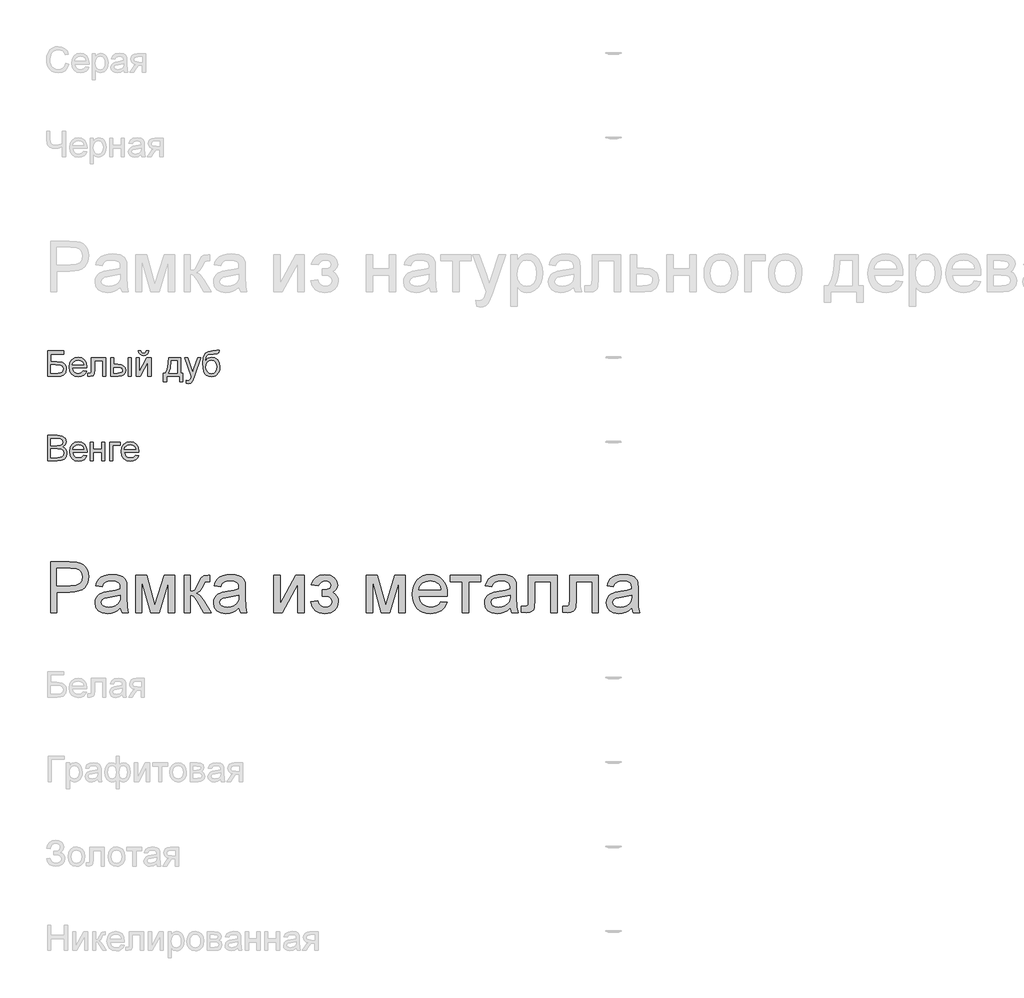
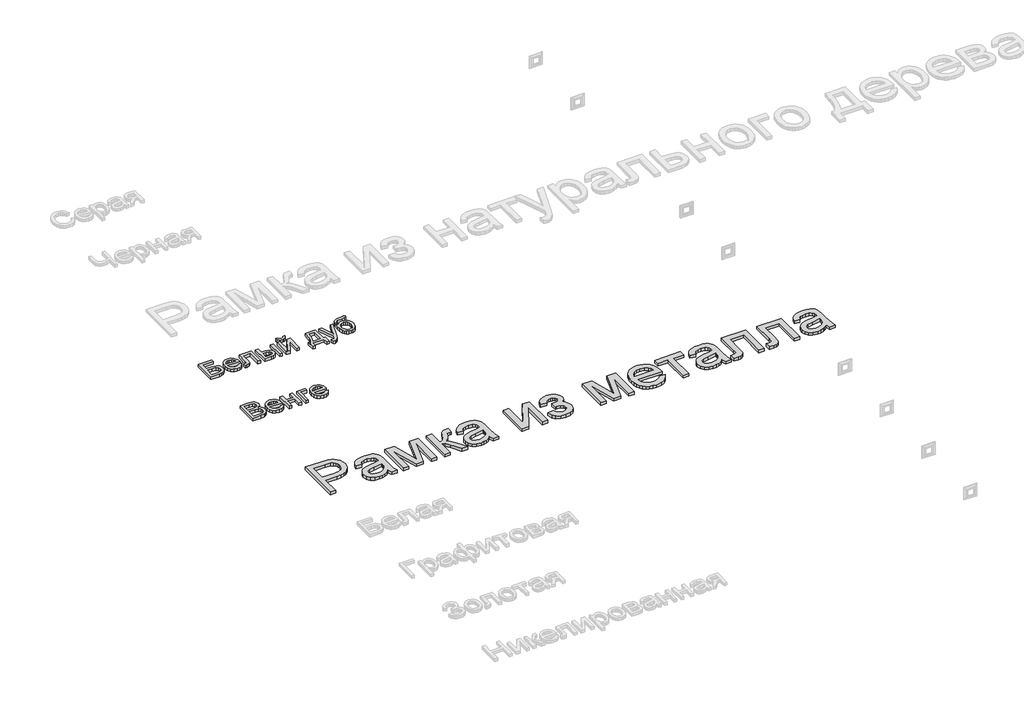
# One storey, part 110 of 168: 3 proxies.
"""IFC4 building model written with IfcOpenShell, lengths in millimetres."""

from ifc_helpers import new_model, si_unit, origin, origin_with_axes, place, context, project, spatial, polyline, outline, extrude, element, save

model = new_model("IFC4")

# Units and contexts
model_context = context("Model", 3, world=origin())
ifc_project = project(units=[si_unit("LENGTHUNIT", "METRE", prefix="MILLI")], contexts=[model_context])

# Site, building, storey
site = spatial("IfcSite", under=ifc_project)
building = spatial("IfcBuilding", under=site)
storey = spatial("IfcBuildingStorey", under=building, Name="Этаж 01", Elevation=0.0)

# Proxies
placement = place(None, origin())
element("IfcBuildingElementProxy", 1, Name="300 мм Arial 2", ObjectType="300 мм Arial 2", at=placement, inside=storey, context=model_context, shape_type="SweptSolid", body=[
    extrude(outline(polyline([(32899.0945017, -12548.4056816), (32899.0945017, -12247.0367511), (33010.7834754, -12247.0367511), (33055.8122316, -12249.9062307), (33075.8893915, -12255.2681108), (33092.4164901, -12263.9961111), (33105.7246213, -12276.4857048), (33116.1448788, -12293.1323651), (33122.8771193, -12312.7680666), (33125.1211995, -12334.224784), (33123.6059855, -12352.7246498), (33119.0603436, -12369.7437906), (33111.4842738, -12385.2822064), (33100.877776, -12399.3398971), (33086.3165468, -12410.9925593), (33066.8762826, -12419.3158895), (33042.5569835, -12424.3098875), (33013.3586494, -12425.9745536), (32936.765618, -12425.9745536), (32936.765618, -12548.4056816), (32899.0945017, -12548.4056816)]), holes=[polyline([(32936.765618, -12388.3034373), (33015.5659413, -12388.3034373), (33048.9696265, -12384.8453465), (33071.0425462, -12374.4710742), (33083.3481989, -12357.824414), (33087.4500832, -12335.5491592), (33085.0312591, -12318.6265874), (33077.7747867, -12304.352766), (33066.581977, -12293.6106117), (33052.3541408, -12287.2830414), (33014.6830245, -12284.7078674), (32936.765618, -12284.7078674), (32936.765618, -12388.3034373)])]), origin_with_axes(), (0.0, 0.0, 1.0), 20.0),
    extrude(outline(polyline([(33313.476781, -12520.1523443), (33295.4781544, -12535.584994), (33276.9460989, -12545.6833548), (33257.4575502, -12551.256767), (33236.589444, -12553.1145711), (33205.1079423, -12548.6448049), (33181.8853914, -12535.2355061), (33167.5655847, -12514.8732377), (33162.7923158, -12489.5445623), (33164.5949376, -12473.9279716), (33170.0028029, -12459.7461207), (33178.3445271, -12447.6060149), (33188.9487257, -12438.1146594), (33215.3258647, -12425.7538244), (33247.9202095, -12420.0884417), (33286.4374544, -12414.1287533), (33313.2560518, -12407.1389954), (33313.476781, -12398.7512859), (33310.883213, -12381.9390788), (33303.1025088, -12370.9394071), (33285.7016904, -12362.7724268), (33261.4582669, -12360.0501), (33239.0174652, -12361.8619189), (33223.3456922, -12367.2973753), (33212.6587202, -12377.3497509), (33205.1723216, -12393.0123268), (33167.5012053, -12388.3034373), (33174.0403078, -12367.7020455), (33183.7983777, -12351.5152378), (33197.685923, -12339.1360086), (33216.6134517, -12329.9573528), (33239.7624262, -12324.273576), (33266.3143092, -12322.3789837), (33291.7809404, -12324.0528468), (33311.9684648, -12329.074436), (33327.1895824, -12336.625214), (33337.7569927, -12345.8866432), (33344.7651447, -12357.3369703), (33349.3084874, -12371.4544419), (33351.1478973, -12404.4166687), (33351.1478973, -12451.2848348), (33353.0608837, -12516.7310418), (33360.5656764, -12548.4056816), (33322.8945601, -12548.4056816), (33313.476781, -12520.1523443)]), holes=[polyline([(33313.476781, -12444.8101117), (33252.7026754, -12456.3616064), (33220.2922716, -12462.4684475), (33205.61378, -12472.4012614), (33200.4634321, -12486.895812), (33203.2685323, -12498.0978187), (33211.683833, -12507.2764745), (33225.525393, -12513.4017097), (33244.6092715, -12515.4434548), (33264.8427813, -12513.1901776), (33282.7218462, -12506.4303459), (33297.2163968, -12496.4699409), (33307.2963635, -12484.6149436), (33311.7661297, -12472.4012614), (33313.2560518, -12455.4786896), (33313.476781, -12444.8101117)])]), origin_with_axes(), (0.0, 0.0, 1.0), 20.0),
    extrude(outline(polyline([(33402.9456823, -12327.0878733), (33467.7664898, -12327.0878733), (33517.7248647, -12504.2598421), (33571.5827888, -12327.0878733), (33633.6812696, -12327.0878733), (33633.6812696, -12548.4056816), (33596.0101533, -12548.4056816), (33596.0101533, -12370.2036431), (33541.8579236, -12548.4056816), (33492.4145835, -12548.4056816), (33440.6167986, -12361.6687808), (33440.6167986, -12548.4056816), (33402.9456823, -12548.4056816), (33402.9456823, -12327.0878733)])), origin_with_axes(), (0.0, 0.0, 1.0), 20.0),
    extrude(outline(polyline([(33690.1879441, -12327.0878733), (33727.8590604, -12327.0878733), (33727.8590604, -12421.265664), (33743.1813455, -12419.5734069), (33753.0957653, -12414.4966353), (33761.8697508, -12401.2528835), (33773.7707334, -12375.0596854), (33790.9508226, -12341.0306009), (33806.1075608, -12329.9573528), (33833.6619222, -12327.0878733), (33840.8724093, -12327.0878733), (33840.8724093, -12364.9797188), (33830.7188662, -12364.7589896), (33812.3247665, -12368.7321151), (33799.3753203, -12393.5273616), (33784.1817939, -12420.345959), (33762.8814263, -12433.4793463), (33774.8191971, -12438.7814455), (33786.6466032, -12448.1394438), (33809.9703217, -12479.0231373), (33850.2901884, -12548.4056816), (33807.4687241, -12548.4056816), (33767.9581979, -12480.4946653), (33748.0925701, -12451.7630814), (33738.8035497, -12446.5483542), (33727.8590604, -12444.8101117), (33727.8590604, -12548.4056816), (33690.1879441, -12548.4056816), (33690.1879441, -12327.0878733)])), origin_with_axes(), (0.0, 0.0, 1.0), 20.0),
    extrude(outline(polyline([(34015.1013222, -12520.1523443), (33997.1026956, -12535.584994), (33978.5706401, -12545.6833548), (33959.0820914, -12551.256767), (33938.2139852, -12553.1145711), (33906.7324835, -12548.6448049), (33883.5099326, -12535.2355061), (33869.1901259, -12514.8732377), (33864.416857, -12489.5445623), (33866.2194788, -12473.9279716), (33871.6273441, -12459.7461207), (33879.9690683, -12447.6060149), (33890.5732669, -12438.1146594), (33916.9504059, -12425.7538244), (33949.5447507, -12420.0884417), (33988.0619956, -12414.1287533), (34014.880593, -12407.1389954), (34015.1013222, -12398.7512859), (34012.5077542, -12381.9390788), (34004.72705, -12370.9394071), (33987.3262316, -12362.7724268), (33963.0828081, -12360.0501), (33940.6420064, -12361.8619189), (33924.9702334, -12367.2973753), (33914.2832614, -12377.3497509), (33906.7968628, -12393.0123268), (33869.1257465, -12388.3034373), (33875.664849, -12367.7020455), (33885.4229189, -12351.5152378), (33899.3104642, -12339.1360086), (33918.2379929, -12329.9573528), (33941.3869674, -12324.273576), (33967.9388504, -12322.3789837), (33993.4054816, -12324.0528468), (34013.593006, -12329.074436), (34028.8141236, -12336.625214), (34039.3815339, -12345.8866432), (34046.3896859, -12357.3369703), (34050.9330286, -12371.4544419), (34052.7724385, -12404.4166687), (34052.7724385, -12451.2848348), (34054.6854249, -12516.7310418), (34062.1902176, -12548.4056816), (34024.5191013, -12548.4056816), (34015.1013222, -12520.1523443)]), holes=[polyline([(34015.1013222, -12444.8101117), (33954.3272166, -12456.3616064), (33921.9168128, -12462.4684475), (33907.2383212, -12472.4012614), (33902.0879733, -12486.895812), (33904.8930735, -12498.0978187), (33913.3083742, -12507.2764745), (33927.1499342, -12513.4017097), (33946.2338127, -12515.4434548), (33966.4673225, -12513.1901776), (33984.3463874, -12506.4303459), (33998.840938, -12496.4699409), (34008.9209047, -12484.6149436), (34013.3906709, -12472.4012614), (34014.880593, -12455.4786896), (34015.1013222, -12444.8101117)])]), origin_with_axes(), (0.0, 0.0, 1.0), 20.0),
    extrude(outline(polyline([(34222.2924619, -12327.0878733), (34259.9635782, -12327.0878733), (34259.9635782, -12495.8721327), (34352.5226882, -12327.0878733), (34401.2302644, -12327.0878733), (34401.2302644, -12548.4056816), (34363.5591481, -12548.4056816), (34363.5591481, -12380.6514918), (34271.5886493, -12548.4056816), (34222.2924619, -12548.4056816), (34222.2924619, -12327.0878733)])), origin_with_axes(), (0.0, 0.0, 1.0), 20.0),
    extrude(outline(polyline([(34509.5347237, -12449.5190013), (34509.5347237, -12411.847885), (34539.259589, -12410.376357), (34554.2691744, -12402.5404705), (34559.5666751, -12395.1920276), (34561.3325087, -12386.1697217), (34558.9688668, -12375.4551586), (34551.8779414, -12367.1502225), (34541.0530137, -12361.8251307), (34527.4873651, -12360.0501), (34513.7745637, -12361.8159336), (34502.2874484, -12367.1134343), (34493.0260192, -12375.9426022), (34485.9902761, -12388.3034373), (34443.6102702, -12383.5945477), (34454.8490652, -12356.8127385), (34471.9371838, -12337.6828747), (34494.8746262, -12326.2049565), (34523.6613924, -12322.3789837), (34555.1520911, -12327.041888), (34578.9908444, -12341.0306009), (34594.0004298, -12361.4940369), (34599.003625, -12385.5811105), (34597.2239958, -12397.9419455), (34591.8851084, -12408.9784054), (34582.9869626, -12418.6904901), (34570.5295585, -12427.0781996), (34585.0700944, -12437.5444423), (34595.4351696, -12450.5490709), (34601.6431783, -12466.1288733), (34603.7125145, -12484.320638), (34598.460999, -12512.0497434), (34582.7064526, -12534.0214956), (34557.515733, -12548.3413022), (34523.955698, -12553.1145711), (34491.1314269, -12548.6999872), (34466.0142837, -12535.4562353), (34448.6042683, -12513.3833156), (34438.9013807, -12482.481228), (34481.2813865, -12477.7723385), (34487.6273509, -12493.7016289), (34498.2775347, -12505.5842173), (34511.9995331, -12512.9786454), (34527.5609415, -12515.4434548), (34542.7176797, -12513.079813), (34555.0785147, -12505.9888875), (34563.3006773, -12495.2191421), (34566.0413982, -12481.8190404), (34564.339944, -12471.2056449), (34559.2355813, -12462.0269891), (34544.7410307, -12451.4319876), (34516.8923636, -12449.2982721), (34509.5347237, -12449.5190013)])), origin_with_axes(), (0.0, 0.0, 1.0), 20.0),
    extrude(outline(polyline([(34768.5236483, -12327.0878733), (34833.3444559, -12327.0878733), (34883.3028308, -12504.2598421), (34937.1607549, -12327.0878733), (34999.2592357, -12327.0878733), (34999.2592357, -12548.4056816), (34961.5881194, -12548.4056816), (34961.5881194, -12370.2036431), (34907.4358897, -12548.4056816), (34857.9925496, -12548.4056816), (34806.1947647, -12361.6687808), (34806.1947647, -12548.4056816), (34768.5236483, -12548.4056816), (34768.5236483, -12327.0878733)])), origin_with_axes(), (0.0, 0.0, 1.0), 20.0),
    extrude(outline(polyline([(35210.7178066, -12482.481228), (35247.6531589, -12487.1901176), (35234.3450277, -12515.0203905), (35213.1090395, -12535.8241173), (35184.4234409, -12548.7919577), (35148.7664786, -12553.1145711), (35125.3921763, -12551.2498692), (35104.5654568, -12545.6557637), (35086.2863202, -12536.3322543), (35070.5547664, -12523.2793413), (35057.9042243, -12506.860308), (35048.8681228, -12487.4384379), (35043.4464619, -12465.013731), (35041.6392416, -12439.5861874), (35043.464856, -12413.2964203), (35048.9416992, -12390.1244531), (35058.0697712, -12370.0702859), (35070.849072, -12353.1339185), (35086.5392391, -12339.6786346), (35104.3999099, -12330.0677174), (35124.4310846, -12324.3011672), (35146.632763, -12322.3789837), (35168.1193708, -12324.2965686), (35187.5504379, -12330.0493233), (35204.9259644, -12339.6372478), (35220.2459502, -12353.0603421), (35232.7516388, -12369.9599213), (35241.6842735, -12389.9773003), (35247.0438543, -12413.1124793), (35248.8303813, -12439.3654582), (35248.6096521, -12449.5190013), (35079.3103579, -12449.5190013), (35085.8310662, -12477.7171562), (35100.9786074, -12498.4473066), (35122.839995, -12511.1944178), (35149.5022426, -12515.4434548), (35169.5518113, -12513.4752861), (35186.4375949, -12507.5707801), (35200.1595933, -12497.3620547), (35210.7178066, -12482.481228)]), holes=[polyline([(35079.3103579, -12411.847885), (35211.1592649, -12411.847885), (35206.0640993, -12391.945469), (35196.0761031, -12377.7084358), (35174.113548, -12364.464684), (35146.4856102, -12360.0501), (35121.0925555, -12363.5725701), (35100.0956906, -12374.1399805), (35085.4999724, -12390.6118968), (35079.3103579, -12411.847885)])]), origin_with_axes(), (0.0, 0.0, 1.0), 20.0),
    extrude(outline(polyline([(35267.6659394, -12327.0878733), (35446.6037419, -12327.0878733), (35446.6037419, -12364.7589896), (35375.9703988, -12364.7589896), (35375.9703988, -12548.4056816), (35338.2992825, -12548.4056816), (35338.2992825, -12364.7589896), (35267.6659394, -12364.7589896), (35267.6659394, -12327.0878733)])), origin_with_axes(), (0.0, 0.0, 1.0), 20.0),
    extrude(outline(polyline([(35620.8326548, -12520.1523443), (35602.8340282, -12535.584994), (35584.3019727, -12545.6833548), (35564.813424, -12551.256767), (35543.9453178, -12553.1145711), (35512.463816, -12548.6448049), (35489.2412651, -12535.2355061), (35474.9214584, -12514.8732377), (35470.1481895, -12489.5445623), (35471.9508113, -12473.9279716), (35477.3586767, -12459.7461207), (35485.7004009, -12447.6060149), (35496.3045994, -12438.1146594), (35522.6817385, -12425.7538244), (35555.2760832, -12420.0884417), (35593.7933281, -12414.1287533), (35620.6119256, -12407.1389954), (35620.8326548, -12398.7512859), (35618.2390867, -12381.9390788), (35610.4583825, -12370.9394071), (35593.0575641, -12362.7724268), (35568.8141407, -12360.0501), (35546.373339, -12361.8619189), (35530.701566, -12367.2973753), (35520.014594, -12377.3497509), (35512.5281954, -12393.0123268), (35474.8570791, -12388.3034373), (35481.3961816, -12367.7020455), (35491.1542515, -12351.5152378), (35505.0417968, -12339.1360086), (35523.9693254, -12329.9573528), (35547.1183, -12324.273576), (35573.670183, -12322.3789837), (35599.1368141, -12324.0528468), (35619.3243386, -12329.074436), (35634.5454561, -12336.625214), (35645.1128665, -12345.8866432), (35652.1210185, -12357.3369703), (35656.6643611, -12371.4544419), (35658.5037711, -12404.4166687), (35658.5037711, -12451.2848348), (35660.4167575, -12516.7310418), (35667.9215502, -12548.4056816), (35630.2504339, -12548.4056816), (35620.8326548, -12520.1523443)]), holes=[polyline([(35620.8326548, -12444.8101117), (35560.0585492, -12456.3616064), (35527.6481454, -12462.4684475), (35512.9696538, -12472.4012614), (35507.8193059, -12486.895812), (35510.6244061, -12498.0978187), (35519.0397067, -12507.2764745), (35532.8812668, -12513.4017097), (35551.9651453, -12515.4434548), (35572.198655, -12513.1901776), (35590.07772, -12506.4303459), (35604.5722706, -12496.4699409), (35614.6522373, -12484.6149436), (35619.1220035, -12472.4012614), (35620.6119256, -12455.4786896), (35620.8326548, -12444.8101117)])]), origin_with_axes(), (0.0, 0.0, 1.0), 20.0),
    extrude(outline(polyline([(35729.1371142, -12327.0878733), (35898.6571375, -12327.0878733), (35898.6571375, -12548.1849524), (35860.9860212, -12548.1849524), (35860.9860212, -12364.7589896), (35766.8082305, -12364.7589896), (35766.8082305, -12470.3411222), (35764.2698447, -12519.0486984), (35759.5149699, -12530.0759612), (35750.3271171, -12539.6133019), (35736.3843895, -12546.2075866), (35717.3648903, -12548.4056816), (35686.7571083, -12546.4926952), (35686.7571083, -12510.7345653), (35703.6061037, -12510.7345653), (35720.6390401, -12508.4169087), (35727.444857, -12501.0592688), (35729.1371142, -12468.2074066), (35729.1371142, -12327.0878733)])), origin_with_axes(), (0.0, 0.0, 1.0), 20.0),
    extrude(outline(polyline([(35973.9993701, -12327.0878733), (36143.5193935, -12327.0878733), (36143.5193935, -12548.1849524), (36105.8482772, -12548.1849524), (36105.8482772, -12364.7589896), (36011.6704864, -12364.7589896), (36011.6704864, -12470.3411222), (36009.1321007, -12519.0486984), (36004.3772259, -12530.0759612), (35995.1893731, -12539.6133019), (35981.2466454, -12546.2075866), (35962.2271463, -12548.4056816), (35931.6193643, -12546.4926952), (35931.6193643, -12510.7345653), (35948.4683597, -12510.7345653), (35965.5012961, -12508.4169087), (35972.307113, -12501.0592688), (35973.9993701, -12468.2074066), (35973.9993701, -12327.0878733)])), origin_with_axes(), (0.0, 0.0, 1.0), 20.0),
    extrude(outline(polyline([(36341.2927541, -12520.1523443), (36323.2941275, -12535.584994), (36304.762072, -12545.6833548), (36285.2735233, -12551.256767), (36264.4054171, -12553.1145711), (36232.9239154, -12548.6448049), (36209.7013645, -12535.2355061), (36195.3815578, -12514.8732377), (36190.6082889, -12489.5445623), (36192.4109107, -12473.9279716), (36197.818776, -12459.7461207), (36206.1605002, -12447.6060149), (36216.7646988, -12438.1146594), (36243.1418378, -12425.7538244), (36275.7361826, -12420.0884417), (36314.2534275, -12414.1287533), (36341.0720249, -12407.1389954), (36341.2927541, -12398.7512859), (36338.6991861, -12381.9390788), (36330.9184819, -12370.9394071), (36313.5176635, -12362.7724268), (36289.27424, -12360.0501), (36266.8334383, -12361.8619189), (36251.1616653, -12367.2973753), (36240.4746933, -12377.3497509), (36232.9882947, -12393.0123268), (36195.3171784, -12388.3034373), (36201.8562809, -12367.7020455), (36211.6143508, -12351.5152378), (36225.5018961, -12339.1360086), (36244.4294248, -12329.9573528), (36267.5783993, -12324.273576), (36294.1302823, -12322.3789837), (36319.5969135, -12324.0528468), (36339.7844379, -12329.074436), (36355.0055555, -12336.625214), (36365.5729658, -12345.8866432), (36372.5811178, -12357.3369703), (36377.1244605, -12371.4544419), (36378.9638704, -12404.4166687), (36378.9638704, -12451.2848348), (36380.8768568, -12516.7310418), (36388.3816495, -12548.4056816), (36350.7105332, -12548.4056816), (36341.2927541, -12520.1523443)]), holes=[polyline([(36341.2927541, -12444.8101117), (36280.5186485, -12456.3616064), (36248.1082447, -12462.4684475), (36233.4297531, -12472.4012614), (36228.2794052, -12486.895812), (36231.0845054, -12498.0978187), (36239.4998061, -12507.2764745), (36253.3413661, -12513.4017097), (36272.4252446, -12515.4434548), (36292.6587544, -12513.1901776), (36310.5378193, -12506.4303459), (36325.0323699, -12496.4699409), (36335.1123366, -12484.6149436), (36339.5821029, -12472.4012614), (36341.0720249, -12455.4786896), (36341.2927541, -12444.8101117)])]), origin_with_axes(), (0.0, 0.0, 1.0), 20.0),
])
element("IfcBuildingElementProxy", 2, Name="150", ObjectType="150", at=placement, inside=storey, context=model_context, shape_type="SweptSolid", body=[
    extrude(outline(polyline([(32882.6133883, -10997.7212163), (32976.791179, -10997.7212163), (32976.791179, -11016.5567745), (32901.4489464, -11016.5567745), (32901.4489464, -11061.2912251), (32936.7288298, -11061.2912251), (32967.8148584, -11065.1171979), (32978.2167218, -11070.6446248), (32986.3193227, -11079.5749603), (32991.53405, -11091.0712726), (32993.2722924, -11104.2966303), (32988.3242796, -11125.7625448), (32973.5538175, -11142.0781113), (32960.2824745, -11146.823789), (32940.1133441, -11148.4056816), (32882.6133883, -11148.4056816), (32882.6133883, -10997.7212163)]), holes=[polyline([(32901.4489464, -11129.5701234), (32941.8056013, -11129.5701234), (32956.0702257, -11128.015822), (32966.269754, -11123.3529177), (32972.3949892, -11115.5814105), (32974.4367343, -11104.7013005), (32969.7646329, -11089.9492325), (32956.7600044, -11082.0765578), (32928.3779085, -11080.1267833), (32901.4489464, -11080.1267833), (32901.4489464, -11129.5701234)])]), origin_with_axes(), (0.0, 0.0, 1.0), 20.0),
    extrude(outline(polyline([(33094.2926883, -11115.4434548), (33112.7603645, -11117.7978996), (33106.1062989, -11131.713036), (33095.4883048, -11142.1148995), (33081.1455055, -11148.5988196), (33063.3170243, -11150.7601263), (33041.2165134, -11147.0307226), (33024.2111682, -11135.8425114), (33013.3678464, -11117.9220597), (33009.7534058, -11093.9959345), (33013.4046346, -11069.2650674), (33024.358321, -11050.7698), (33041.13374, -11039.2366995), (33062.2501665, -11035.3923327), (33082.709004, -11039.2275025), (33099.0567601, -11050.7330118), (33109.7759218, -11069.191491), (33113.3489756, -11093.8855699), (33113.2386111, -11098.9623414), (33028.588964, -11098.9623414), (33031.8493181, -11113.0614189), (33039.4230887, -11123.4264941), (33050.3537825, -11129.8000497), (33063.6849063, -11131.9245682), (33082.1525825, -11127.9882308), (33094.2926883, -11115.4434548)]), holes=[polyline([(33028.588964, -11080.1267833), (33094.5134175, -11080.1267833), (33091.9658347, -11070.1755753), (33086.9718366, -11063.0570587), (33075.990559, -11056.4351828), (33062.1765901, -11054.2278908), (33049.4800628, -11055.9891259), (33038.9816303, -11061.272831), (33031.6837712, -11069.5087892), (33028.588964, -11080.1267833)])]), origin_with_axes(), (0.0, 0.0, 1.0), 20.0),
    extrude(outline(polyline([(33141.6023129, -11037.7467774), (33226.3623246, -11037.7467774), (33226.3623246, -11148.295317), (33207.5267664, -11148.295317), (33207.5267664, -11056.5823356), (33160.437871, -11056.5823356), (33160.437871, -11109.3734019), (33159.1686781, -11133.72719), (33152.1973143, -11144.0094917), (33135.716201, -11148.4056816), (33120.41231, -11147.4491884), (33120.41231, -11129.5701234), (33128.8368076, -11129.5701234), (33137.3532758, -11128.4112951), (33140.7561843, -11124.7324752), (33141.6023129, -11108.3065441), (33141.6023129, -11037.7467774)])), origin_with_axes(), (0.0, 0.0, 1.0), 20.0),
    extrude(outline(polyline([(33358.2112316, -11037.7467774), (33377.0467898, -11037.7467774), (33377.0467898, -11148.4056816), (33358.2112316, -11148.4056816), (33358.2112316, -11037.7467774)])), origin_with_axes(), (0.0, 0.0, 1.0), 20.0),
    extrude(outline(polyline([(33254.6156618, -11037.7467774), (33273.4512199, -11037.7467774), (33273.4512199, -11077.7723385), (33296.7381502, -11077.7723385), (33316.8658939, -11080.1313818), (33331.7789103, -11087.2085117), (33341.0081498, -11098.433511), (33344.084563, -11113.2361628), (33341.5047905, -11126.7144394), (33333.7654731, -11138.0865916), (33320.3607729, -11145.8259091), (33300.7848522, -11148.4056816), (33254.6156618, -11148.4056816), (33254.6156618, -11037.7467774)]), holes=[polyline([(33273.4512199, -11129.5701234), (33292.8018129, -11129.5701234), (33317.7810004, -11125.615392), (33323.3820037, -11120.552416), (33325.2490049, -11113.272951), (33319.7123808, -11101.6846682), (33310.8326292, -11097.8770895), (33295.2666223, -11096.6078966), (33273.4512199, -11096.6078966), (33273.4512199, -11129.5701234)])]), origin_with_axes(), (0.0, 0.0, 1.0), 20.0),
    extrude(outline(polyline([(33405.300127, -11037.7467774), (33424.1356852, -11037.7467774), (33424.1356852, -11122.1389071), (33470.4152402, -11037.7467774), (33494.7690282, -11037.7467774), (33494.7690282, -11148.4056816), (33475.9334701, -11148.4056816), (33475.9334701, -11064.5285867), (33429.9482207, -11148.4056816), (33405.300127, -11148.4056816), (33405.300127, -11037.7467774)])), origin_with_axes(), (0.0, 0.0, 1.0), 20.0),
    extrude(outline(polyline([(33466.515691, -10997.7212163), (33480.6423596, -10997.7212163), (33477.6027346, -11009.7831473), (33471.5004921, -11018.672096), (33462.6115433, -11024.1489392), (33451.2118, -11025.9745536), (33438.8417679, -11024.1627347), (33429.2492449, -11018.7272783), (33422.6917483, -11009.8521251), (33419.4267956, -10997.7212163), (33433.5534643, -10997.7212163), (33438.850965, -11008.3346119), (33449.5195428, -11011.847885), (33461.2181903, -11008.4449765), (33466.515691, -10997.7212163)])), origin_with_axes(), (0.0, 0.0, 1.0), 20.0),
    extrude(outline(polyline([(33598.3645981, -11037.7467774), (33668.9979412, -11037.7467774), (33668.9979412, -11129.5701234), (33683.1246098, -11129.5701234), (33683.1246098, -11179.0134636), (33664.2890516, -11179.0134636), (33664.2890516, -11148.4056816), (33586.5923742, -11148.4056816), (33586.5923742, -11179.0134636), (33567.7568161, -11179.0134636), (33567.7568161, -11129.5701234), (33579.5290399, -11129.5701234), (33588.0868948, -11114.105284), (33594.0787728, -11093.6464466), (33598.3645981, -11037.7467774)]), holes=[polyline([(33614.8457115, -11056.5823356), (33610.4311275, -11099.4957703), (33600.7190429, -11129.5701234), (33650.162383, -11129.5701234), (33650.162383, -11056.5823356), (33614.8457115, -11056.5823356)])]), origin_with_axes(), (0.0, 0.0, 1.0), 20.0),
    extrude(outline(polyline([(33704.3146127, -11190.7856874), (33701.9601679, -11172.6491051), (33711.5250998, -11174.304574), (33720.4646323, -11172.2260408), (33725.946074, -11166.4318993), (33731.0964219, -11152.5627481), (33732.5679499, -11148.0010114), (33692.5423889, -11037.7467774), (33712.4080166, -11037.7467774), (33733.6348077, -11099.1830706), (33741.0292358, -11123.7575879), (33748.4236639, -11102.0525502), (33770.2390662, -11037.7467774), (33789.9575412, -11037.7467774), (33751.4402963, -11151.0544319), (33741.433906, -11175.6289492), (33730.5078108, -11188.9094892), (33715.8293191, -11193.1401322), (33704.3146127, -11190.7856874)])), origin_with_axes(), (0.0, 0.0, 1.0), 20.0),
    extrude(outline(polyline([(33883.2524152, -10995.3667716), (33899.7335285, -10995.3667716), (33894.8774862, -11010.0636573), (33885.2757661, -11015.3795521), (33862.209565, -11016.5567745), (33831.1419305, -11020.897782), (33824.0142169, -11026.5447707), (33819.2225539, -11034.8037215), (33815.194246, -11059.4150269), (33831.5098125, -11041.3888092), (33841.4288308, -11036.8914518), (33852.5342686, -11035.3923327), (33872.1331819, -11039.2045098), (33888.0348811, -11050.6410414), (33898.5747003, -11068.5798871), (33902.0879733, -11091.8990071), (33900.3451324, -11109.8792396), (33895.1166095, -11124.3094109), (33878.5803138, -11143.8623389), (33867.2863366, -11149.0356795), (33852.5342686, -11150.7601263), (33835.5335219, -11148.5390388), (33822.7910092, -11141.8757762), (33813.4146169, -11131.7498242), (33806.512231, -11119.1406689), (33802.2631939, -11100.1533594), (33800.8468482, -11070.8929452), (33804.4199021, -11034.7531377), (33815.1390637, -11012.7124076), (33833.2710476, -11001.4690142), (33859.0825681, -10997.7212163), (33880.0518418, -10997.2981521), (33883.2524152, -10995.3667716)]), holes=[polyline([(33883.2524152, -11091.3103959), (33881.2106701, -11076.48935), (33875.0854349, -11064.6205572), (33865.2445915, -11056.8260574), (33852.056022, -11054.2278908), (33838.3064324, -11056.9732102), (33828.1069041, -11065.2091684), (33821.7885308, -11078.0344544), (33819.6824064, -11094.5477575), (33822.00926, -11110.5552228), (33828.9898209, -11122.304454), (33839.3824872, -11129.5195396), (33851.9456574, -11131.9245682), (33864.5732068, -11129.1424606), (33874.5704001, -11120.7961378), (33881.0819114, -11107.8604872), (33883.2524152, -11091.3103959)])]), origin_with_axes(), (0.0, 0.0, 1.0), 20.0),
])
element("IfcBuildingElementProxy", 3, Name="150", ObjectType="150", at=placement, inside=storey, context=model_context, shape_type="SweptSolid", body=[
    extrude(outline(polyline([(32882.6133883, -11648.4056816), (32882.6133883, -11497.7212163), (32940.1133441, -11497.7212163), (32968.2747109, -11502.1541944), (32977.7384752, -11507.7781904), (32984.902977, -11515.7842223), (32990.9178477, -11535.0612389), (32985.8594702, -11552.6643923), (32970.5739733, -11566.0001146), (32981.2471497, -11571.5735269), (32989.13362, -11580.0532069), (32994.0034579, -11590.8781346), (32995.6267372, -11603.48729), (32991.1937592, -11623.7391938), (32980.2124816, -11638.160168), (32963.8233387, -11645.8121135), (32939.6718857, -11648.4056816), (32882.6133883, -11648.4056816)]), holes=[polyline([(32901.4489464, -11558.9367803), (32935.845913, -11558.9367803), (32955.9322699, -11557.3180996), (32968.0171935, -11550.3467358), (32972.0822895, -11538.0778712), (32968.293105, -11525.7906126), (32957.4405861, -11518.5249432), (32933.2339508, -11516.5567745), (32901.4489464, -11516.5567745), (32901.4489464, -11558.9367803)]), polyline([(32901.4489464, -11629.5701234), (32940.0765559, -11629.5701234), (32954.0560717, -11628.8343594), (32965.8834779, -11624.7324752), (32973.7193644, -11616.3631598), (32976.791179, -11603.671231), (32973.1859355, -11589.0295275), (32961.5056821, -11580.2923302), (32938.2371459, -11577.7723385), (32901.4489464, -11577.7723385), (32901.4489464, -11629.5701234)])]), origin_with_axes(), (0.0, 0.0, 1.0), 20.0),
    extrude(outline(polyline([(33096.6471331, -11615.4434548), (33115.1148092, -11617.7978996), (33108.4607436, -11631.713036), (33097.8427496, -11642.1148995), (33083.4999503, -11648.5988196), (33065.6714691, -11650.7601263), (33043.5709582, -11647.0307226), (33026.565613, -11635.8425114), (33015.7222912, -11617.9220597), (33012.1078506, -11593.9959345), (33015.7590794, -11569.2650674), (33026.7127658, -11550.7698), (33043.4881848, -11539.2366995), (33064.6046113, -11535.3923327), (33085.0634487, -11539.2275025), (33101.4112049, -11550.7330118), (33112.1303665, -11569.191491), (33115.7034204, -11593.8855699), (33115.5930558, -11598.9623414), (33030.9434087, -11598.9623414), (33034.2037629, -11613.0614189), (33041.7775335, -11623.4264941), (33052.7082273, -11629.8000497), (33066.0393511, -11631.9245682), (33084.5070272, -11627.9882308), (33096.6471331, -11615.4434548)]), holes=[polyline([(33030.9434087, -11580.1267833), (33096.8678623, -11580.1267833), (33094.3202794, -11570.1755753), (33089.3262814, -11563.0570587), (33078.3450038, -11556.4351828), (33064.5310349, -11554.2278908), (33051.8345075, -11555.9891259), (33041.3360751, -11561.272831), (33034.038216, -11569.5087892), (33030.9434087, -11580.1267833)])]), origin_with_axes(), (0.0, 0.0, 1.0), 20.0),
    extrude(outline(polyline([(33134.5389786, -11537.7467774), (33153.3745367, -11537.7467774), (33153.3745367, -11580.1267833), (33202.8178769, -11580.1267833), (33202.8178769, -11537.7467774), (33221.653435, -11537.7467774), (33221.653435, -11648.4056816), (33202.8178769, -11648.4056816), (33202.8178769, -11598.9623414), (33153.3745367, -11598.9623414), (33153.3745367, -11648.4056816), (33134.5389786, -11648.4056816), (33134.5389786, -11537.7467774)])), origin_with_axes(), (0.0, 0.0, 1.0), 20.0),
    extrude(outline(polyline([(33249.9067723, -11537.7467774), (33311.1223363, -11537.7467774), (33311.1223363, -11556.5823356), (33268.7423304, -11556.5823356), (33268.7423304, -11648.4056816), (33249.9067723, -11648.4056816), (33249.9067723, -11537.7467774)])), origin_with_axes(), (0.0, 0.0, 1.0), 20.0),
    extrude(outline(polyline([(33402.7249531, -11615.4434548), (33421.1926292, -11617.7978996), (33414.5385636, -11631.713036), (33403.9205695, -11642.1148995), (33389.5777703, -11648.5988196), (33371.7492891, -11650.7601263), (33349.6487782, -11647.0307226), (33332.643433, -11635.8425114), (33321.8001112, -11617.9220597), (33318.1856706, -11593.9959345), (33321.8368994, -11569.2650674), (33332.7905858, -11550.7698), (33349.5660048, -11539.2366995), (33370.6824313, -11535.3923327), (33391.1412687, -11539.2275025), (33407.4890249, -11550.7330118), (33418.2081865, -11569.191491), (33421.7812404, -11593.8855699), (33421.6708758, -11598.9623414), (33337.0212287, -11598.9623414), (33340.2815829, -11613.0614189), (33347.8553535, -11623.4264941), (33358.7860473, -11629.8000497), (33372.1171711, -11631.9245682), (33390.5848472, -11627.9882308), (33402.7249531, -11615.4434548)]), holes=[polyline([(33337.0212287, -11580.1267833), (33402.9456823, -11580.1267833), (33400.3980994, -11570.1755753), (33395.4041014, -11563.0570587), (33384.4228238, -11556.4351828), (33370.6088549, -11554.2278908), (33357.9123275, -11555.9891259), (33347.4138951, -11561.272831), (33340.116036, -11569.5087892), (33337.0212287, -11580.1267833)])]), origin_with_axes(), (0.0, 0.0, 1.0), 20.0),
])

save(model, "model.ifc")
